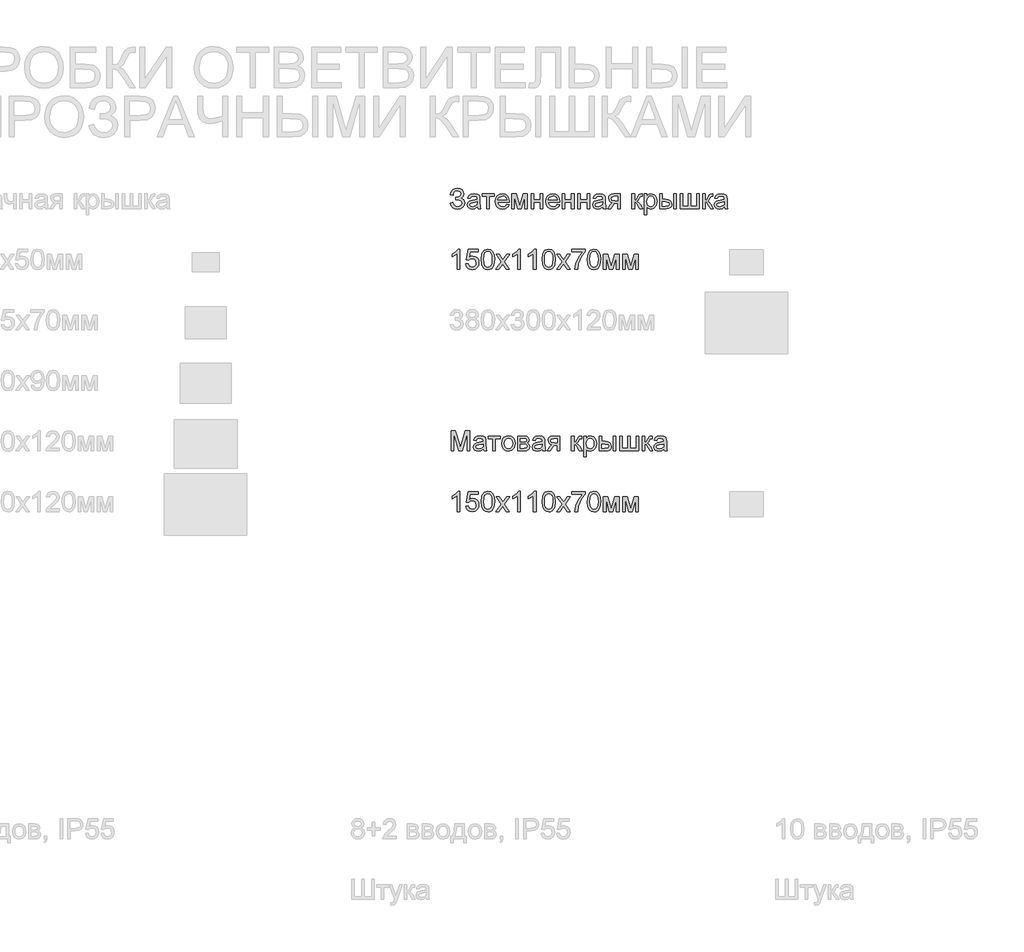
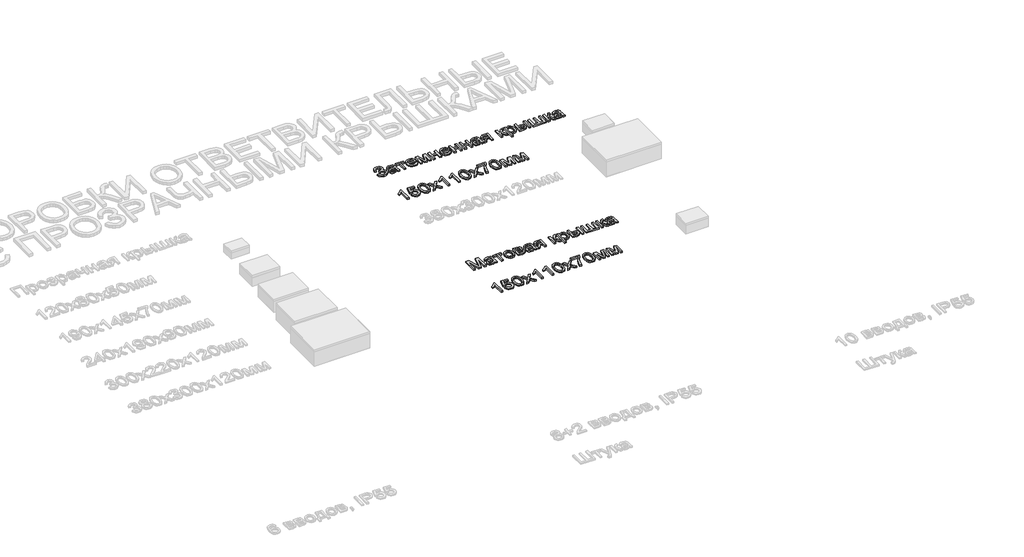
# One storey, part 28 of 98: 4 proxies.
"""IFC4 building model written with IfcOpenShell, lengths in millimetres."""

from ifc_helpers import new_model, si_unit, origin, origin_with_axes, place, context, project, spatial, polyline, outline, extrude, element, save

model = new_model("IFC4")

# Units and contexts
model_context = context("Model", 3, world=origin())
ifc_project = project(units=[si_unit("LENGTHUNIT", "METRE", prefix="MILLI")], contexts=[model_context])

# Site, building, storey
site = spatial("IfcSite", under=ifc_project)
building = spatial("IfcBuilding", under=site)
storey = spatial("IfcBuildingStorey", under=building, Name="Этаж 01", Elevation=0.0)

# Proxies
placement = place(None, origin())
element("IfcBuildingElementProxy", 1, Name="100", ObjectType="100", at=placement, inside=storey, context=model_context, shape_type="SweptSolid", body=[
    extrude(outline(polyline([(8587.7229186, -42337.5373486), (8575.1658798, -42337.5373486), (8575.1658798, -42259.25206), (8563.2710286, -42267.7256087), (8550.0518023, -42274.0654417), (8550.0518023, -42262.195116), (8568.4581648, -42250.4474176), (8579.6295147, -42237.0810385), (8587.7229186, -42237.0810385), (8587.7229186, -42337.5373486)])), origin_with_axes(), (0.0, 0.0, 1.0), 10.0),
    extrude(outline(polyline([(8617.5458857, -42310.8536412), (8630.1029244, -42309.2840114), (8636.4304948, -42322.2211949), (8649.5516192, -42326.5499397), (8658.5524654, -42325.0446892), (8665.2969686, -42320.5289377), (8669.5092175, -42313.5238514), (8670.9133004, -42304.5505964), (8665.6525879, -42289.6391128), (8659.0460404, -42285.5372286), (8649.747823, -42284.1699338), (8638.7236259, -42286.3527004), (8631.6725543, -42292.0180831), (8619.1155155, -42290.4484532), (8630.1029244, -42238.6506683), (8678.7614497, -42238.6506683), (8678.7614497, -42251.2077071), (8640.2564675, -42251.2077071), (8634.8853904, -42278.8724331), (8643.8555797, -42273.4277796), (8653.2549647, -42271.6128951), (8664.9873346, -42273.8631066), (8674.7270105, -42280.6137412), (8681.284507, -42290.9021744), (8683.4703392, -42303.7657815), (8681.5021705, -42316.3228202), (8675.5976645, -42327.0649745), (8664.2914245, -42336.0964775), (8649.5025683, -42339.1069785), (8637.1693244, -42337.1725323), (8627.3438095, -42331.3691938), (8620.6085033, -42322.3714134), (8617.5458857, -42310.8536412)])), origin_with_axes(), (0.0, 0.0, 1.0), 10.0),
    extrude(outline(polyline([(8694.4577481, -42288.1185339), (8698.1488308, -42259.2152718), (8709.1117143, -42242.5502175), (8727.4199749, -42237.0810385), (8742.0862038, -42240.3184), (8752.2152214, -42249.65034), (8758.1013333, -42264.5127726), (8760.3822017, -42288.1185339), (8756.7279072, -42316.8991687), (8745.8018119, -42333.6010113), (8737.5704523, -42337.7304867), (8727.4199749, -42339.1069785), (8714.3724268, -42336.7157455), (8704.4641384, -42329.5420466), (8696.9593457, -42312.5520298), (8694.4577481, -42288.1185339)]), holes=[polyline([(8707.0147869, -42288.0940085), (8708.4863149, -42307.8462059), (8712.9008988, -42319.2781389), (8719.4737238, -42324.7319895), (8727.4199749, -42326.5499397), (8735.366226, -42324.7258581), (8741.939051, -42319.2536135), (8746.3536349, -42307.8155491), (8747.8251629, -42288.0940085), (8746.4026858, -42268.7863351), (8742.1352547, -42257.2654973), (8735.5746925, -42251.5449322), (8727.2728221, -42249.6380772), (8719.4124101, -42251.3180717), (8713.0971025, -42256.358055), (8708.5353658, -42268.5962627), (8707.0147869, -42288.0940085)])]), origin_with_axes(), (0.0, 0.0, 1.0), 10.0),
    extrude(outline(polyline([(8766.660721, -42337.5373486), (8793.4915812, -42300.4548435), (8768.2303509, -42263.7647458), (8783.3380382, -42263.7647458), (8795.5271949, -42281.4230816), (8801.2171031, -42289.7617402), (8806.1467219, -42282.9436605), (8820.0281358, -42263.7647458), (8835.1358231, -42263.7647458), (8808.5992685, -42300.4548435), (8834.1548044, -42337.5373486), (8819.0471172, -42337.5373486), (8803.6696498, -42315.2436997), (8800.8492211, -42311.1724723), (8781.7684083, -42337.5373486), (8766.660721, -42337.5373486)])), origin_with_axes(), (0.0, 0.0, 1.0), 10.0),
    extrude(outline(polyline([(8889.091849, -42337.5373486), (8876.5348103, -42337.5373486), (8876.5348103, -42259.25206), (8864.6399591, -42267.7256087), (8851.4207327, -42274.0654417), (8851.4207327, -42262.195116), (8869.8270952, -42250.4474176), (8880.9984451, -42237.0810385), (8889.091849, -42237.0810385), (8889.091849, -42337.5373486)])), origin_with_axes(), (0.0, 0.0, 1.0), 10.0),
    extrude(outline(polyline([(8966.0037115, -42337.5373486), (8953.4466727, -42337.5373486), (8953.4466727, -42259.25206), (8941.5518216, -42267.7256087), (8928.3325952, -42274.0654417), (8928.3325952, -42262.195116), (8946.7389577, -42250.4474176), (8957.9103076, -42237.0810385), (8966.0037115, -42237.0810385), (8966.0037115, -42337.5373486)])), origin_with_axes(), (0.0, 0.0, 1.0), 10.0),
    extrude(outline(polyline([(8995.8266786, -42288.1185339), (8999.5177613, -42259.2152718), (9010.4806447, -42242.5502175), (9028.7889053, -42237.0810385), (9043.4551342, -42240.3184), (9053.5841518, -42249.65034), (9059.4702637, -42264.5127726), (9061.7511321, -42288.1185339), (9058.0968376, -42316.8991687), (9047.1707424, -42333.6010113), (9038.9393827, -42337.7304867), (9028.7889053, -42339.1069785), (9015.7413572, -42336.7157455), (9005.8330688, -42329.5420466), (8998.3282761, -42312.5520298), (8995.8266786, -42288.1185339)]), holes=[polyline([(9008.3837173, -42288.0940085), (9009.8552453, -42307.8462059), (9014.2698293, -42319.2781389), (9020.8426542, -42324.7319895), (9028.7889053, -42326.5499397), (9036.7351564, -42324.7258581), (9043.3079814, -42319.2536135), (9047.7225654, -42307.8155491), (9049.1940933, -42288.0940085), (9047.7716163, -42268.7863351), (9043.5041852, -42257.2654973), (9036.9436229, -42251.5449322), (9028.6417525, -42249.6380772), (9020.7813406, -42251.3180717), (9014.466033, -42256.358055), (9009.9042963, -42268.5962627), (9008.3837173, -42288.0940085)])]), origin_with_axes(), (0.0, 0.0, 1.0), 10.0),
    extrude(outline(polyline([(9068.0296515, -42337.5373486), (9094.8605117, -42300.4548435), (9069.5992813, -42263.7647458), (9084.7069686, -42263.7647458), (9096.8961254, -42281.4230816), (9102.5860336, -42289.7617402), (9107.5156523, -42282.9436605), (9121.3970663, -42263.7647458), (9136.5047535, -42263.7647458), (9109.9681989, -42300.4548435), (9135.5237349, -42337.5373486), (9120.4160476, -42337.5373486), (9105.0385802, -42315.2436997), (9102.2181516, -42311.1724723), (9083.1373388, -42337.5373486), (9068.0296515, -42337.5373486)])), origin_with_axes(), (0.0, 0.0, 1.0), 10.0),
    extrude(outline(polyline([(9143.3718841, -42251.2077071), (9143.3718841, -42238.6506683), (9209.2963376, -42238.6506683), (9209.2963376, -42248.8042114), (9190.5956696, -42275.8190126), (9176.2850599, -42310.2405046), (9171.6252213, -42337.5373486), (9159.0681826, -42337.5373486), (9164.059115, -42309.210435), (9177.7565879, -42277.1924387), (9196.7392989, -42251.2077071), (9143.3718841, -42251.2077071)])), origin_with_axes(), (0.0, 0.0, 1.0), 10.0),
    extrude(outline(polyline([(9220.2837466, -42288.1185339), (9223.9748293, -42259.2152718), (9234.9377127, -42242.5502175), (9253.2459733, -42237.0810385), (9267.9122022, -42240.3184), (9278.0412198, -42249.65034), (9283.9273317, -42264.5127726), (9286.2082001, -42288.1185339), (9282.5539056, -42316.8991687), (9271.6278104, -42333.6010113), (9263.3964507, -42337.7304867), (9253.2459733, -42339.1069785), (9240.1984252, -42336.7157455), (9230.2901368, -42329.5420466), (9222.7853441, -42312.5520298), (9220.2837466, -42288.1185339)]), holes=[polyline([(9232.8407853, -42288.0940085), (9234.3123133, -42307.8462059), (9238.7268973, -42319.2781389), (9245.2997222, -42324.7319895), (9253.2459733, -42326.5499397), (9261.1922244, -42324.7258581), (9267.7650494, -42319.2536135), (9272.1796334, -42307.8155491), (9273.6511613, -42288.0940085), (9272.2286843, -42268.7863351), (9267.9612531, -42257.2654973), (9261.4006909, -42251.5449322), (9253.0988205, -42249.6380772), (9245.2384086, -42251.3180717), (9238.923101, -42256.358055), (9234.3613642, -42268.5962627), (9232.8407853, -42288.0940085)])]), origin_with_axes(), (0.0, 0.0, 1.0), 10.0),
    extrude(outline(polyline([(9300.3348687, -42263.7647458), (9321.9418046, -42263.7647458), (9338.5945962, -42322.8220688), (9356.5472376, -42263.7647458), (9377.2467312, -42263.7647458), (9377.2467312, -42337.5373486), (9364.6896924, -42337.5373486), (9364.6896924, -42278.1366691), (9346.6389492, -42337.5373486), (9330.1578358, -42337.5373486), (9312.8919075, -42275.291715), (9312.8919075, -42337.5373486), (9300.3348687, -42337.5373486), (9300.3348687, -42263.7647458)])), origin_with_axes(), (0.0, 0.0, 1.0), 10.0),
    extrude(outline(polyline([(9396.0822893, -42263.7647458), (9417.6892252, -42263.7647458), (9434.3420168, -42322.8220688), (9452.2946582, -42263.7647458), (9472.9941518, -42263.7647458), (9472.9941518, -42337.5373486), (9460.437113, -42337.5373486), (9460.437113, -42278.1366691), (9442.3863698, -42337.5373486), (9425.9052564, -42337.5373486), (9408.6393281, -42275.291715), (9408.6393281, -42337.5373486), (9396.0822893, -42337.5373486), (9396.0822893, -42263.7647458)])), origin_with_axes(), (0.0, 0.0, 1.0), 10.0),
])
element("IfcBuildingElementProxy", 2, Name="100", ObjectType="100", at=placement, inside=storey, context=model_context, shape_type="SweptSolid", body=[
    extrude(outline(polyline([(8540.6340232, -42009.2840114), (8553.191062, -42006.1447517), (8560.9043211, -42019.7441228), (8568.1914503, -42024.8484855), (8577.5203246, -42026.5499397), (8594.185379, -42021.43638), (8598.7563128, -42015.792457), (8600.2799574, -42009.0878077), (8598.6152913, -42002.0643272), (8593.6212932, -41996.6411335), (8575.4847109, -41992.0180831), (8568.8873604, -41992.0180831), (8568.8873604, -41979.4610443), (8583.0998682, -41978.4432375), (8591.794146, -41973.2438386), (8595.5710678, -41963.7402204), (8590.5433472, -41952.7405487), (8576.9317134, -41948.0684474), (8564.1171572, -41951.6614282), (8556.7840428, -41961.1895719), (8554.7606918, -41970.0432652), (8542.2036531, -41966.9040055), (8546.104735, -41953.1697444), (8553.1726679, -41943.3595578), (8563.4074516, -41937.4734459), (8576.8090861, -41935.5114086), (8589.7370725, -41937.550088), (8599.6790834, -41943.6661262), (8606.0158508, -41952.5106225), (8608.1281066, -41962.7346763), (8604.8416941, -41975.1629563), (8594.9824566, -41984.439714), (8607.7111737, -41993.0849409), (8612.8369961, -42008.7199257), (8610.3783181, -42020.6117112), (8603.0022841, -42030.3881752), (8591.5672854, -42036.9272776), (8576.9317134, -42039.1069785), (8564.196865, -42037.243043), (8553.9023005, -42031.6512367), (8546.0480199, -42022.3315595), (8540.6340232, -42009.2840114)])), origin_with_axes(), (0.0, 0.0, 1.0), 10.0),
    extrude(outline(polyline([(8675.62219, -42028.1195695), (8663.4452959, -42036.6299064), (8649.9930776, -42039.1069785), (8639.4992437, -42037.6170564), (8631.7583934, -42033.1472901), (8626.9851245, -42026.3598673), (8625.3940349, -42017.9169755), (8627.7975306, -42007.9841617), (8634.1128382, -42000.7736746), (8642.9052179, -41996.6533962), (8653.7699995, -41994.7649353), (8675.5486136, -41990.4484532), (8675.62219, -41987.6525501), (8672.1640992, -41978.3819238), (8658.2826853, -41974.7521548), (8645.5784937, -41977.1679132), (8639.5207035, -41985.7395637), (8626.9636647, -41984.1699338), (8632.3960555, -41971.9072007), (8643.3344135, -41964.721239), (8659.901366, -41962.195116), (8675.1194179, -41964.4269334), (8683.7155939, -41970.0310025), (8687.5660921, -41978.5536021), (8688.1792287, -41989.541011), (8688.1792287, -42005.163733), (8688.8168909, -42026.9791354), (8691.3184884, -42037.5373486), (8678.7614497, -42037.5373486), (8675.62219, -42028.1195695)]), holes=[polyline([(8675.62219, -42003.005492), (8655.3641548, -42006.8559902), (8644.5606868, -42008.8916039), (8639.6678563, -42012.2025419), (8637.9510737, -42017.0340587), (8641.6912073, -42023.8276129), (8652.6663535, -42026.5499397), (8665.370545, -42023.5455701), (8673.5620508, -42016.2737693), (8675.5486136, -42006.5616846), (8675.62219, -42003.005492)])]), origin_with_axes(), (0.0, 0.0, 1.0), 10.0),
    extrude(outline(polyline([(8699.1666377, -41963.7647458), (8758.8125718, -41963.7647458), (8758.8125718, -41976.3217846), (8735.2681241, -41976.3217846), (8735.2681241, -42037.5373486), (8722.7110854, -42037.5373486), (8722.7110854, -41976.3217846), (8699.1666377, -41976.3217846), (8699.1666377, -41963.7647458)])), origin_with_axes(), (0.0, 0.0, 1.0), 10.0),
    extrude(outline(polyline([(8821.4506129, -42015.5625308), (8833.762397, -42017.1321606), (8829.3263532, -42026.4089183), (8822.2476905, -42033.3434939), (8812.6858243, -42037.6661073), (8800.8001702, -42039.1069785), (8786.0664963, -42036.6207093), (8774.7295995, -42029.1619019), (8767.5007183, -42017.2149341), (8765.0910912, -42001.2641839), (8767.5252437, -41984.7769391), (8774.8277013, -41972.4467609), (8786.011314, -41964.7580272), (8800.0889317, -41962.195116), (8813.7281566, -41964.7518959), (8824.6266608, -41972.4222355), (8831.7727685, -41984.7278882), (8834.1548044, -42001.1906075), (8834.081228, -42004.5751218), (8777.64813, -42004.5751218), (8779.8216994, -42013.9745068), (8784.8708798, -42020.884557), (8792.158009, -42025.133594), (8801.0454249, -42026.5499397), (8813.357209, -42023.9257148), (8821.4506129, -42015.5625308)]), holes=[polyline([(8777.64813, -41992.0180831), (8821.5977657, -41992.0180831), (8816.5700451, -41980.6382667), (8809.2491934, -41976.2236828), (8800.0398807, -41974.7521548), (8784.5765742, -41979.4487816), (8779.7113348, -41984.9394204), (8777.64813, -41992.0180831)])]), origin_with_axes(), (0.0, 0.0, 1.0), 10.0),
    extrude(outline(polyline([(8846.7118432, -41963.7647458), (8868.318779, -41963.7647458), (8884.9715707, -42022.8220688), (8902.9242121, -41963.7647458), (8923.6237057, -41963.7647458), (8923.6237057, -42037.5373486), (8911.0666669, -42037.5373486), (8911.0666669, -41978.1366691), (8893.0159237, -42037.5373486), (8876.5348103, -42037.5373486), (8859.268882, -41975.291715), (8859.268882, -42037.5373486), (8846.7118432, -42037.5373486), (8846.7118432, -41963.7647458)])), origin_with_axes(), (0.0, 0.0, 1.0), 10.0),
    extrude(outline(polyline([(8942.4592638, -41963.7647458), (8955.0163026, -41963.7647458), (8955.0163026, -41992.0180831), (8987.9785293, -41992.0180831), (8987.9785293, -41963.7647458), (9000.5355681, -41963.7647458), (9000.5355681, -42037.5373486), (8987.9785293, -42037.5373486), (8987.9785293, -42004.5751218), (8955.0163026, -42004.5751218), (8955.0163026, -42037.5373486), (8942.4592638, -42037.5373486), (8942.4592638, -41963.7647458)])), origin_with_axes(), (0.0, 0.0, 1.0), 10.0),
    extrude(outline(polyline([(9071.0217584, -42015.5625308), (9083.3335425, -42017.1321606), (9078.8974988, -42026.4089183), (9071.818836, -42033.3434939), (9062.2569699, -42037.6661073), (9050.3713157, -42039.1069785), (9035.6376418, -42036.6207093), (9024.300745, -42029.1619019), (9017.0718638, -42017.2149341), (9014.6622367, -42001.2641839), (9017.0963893, -41984.7769391), (9024.3988469, -41972.4467609), (9035.5824595, -41964.7580272), (9049.6600772, -41962.195116), (9063.2993022, -41964.7518959), (9074.1978063, -41972.4222355), (9081.343914, -41984.7278882), (9083.72595, -42001.1906075), (9083.6523736, -42004.5751218), (9027.2192755, -42004.5751218), (9029.392845, -42013.9745068), (9034.4420253, -42020.884557), (9041.7291545, -42025.133594), (9050.6165704, -42026.5499397), (9062.9283545, -42023.9257148), (9071.0217584, -42015.5625308)]), holes=[polyline([(9027.2192755, -41992.0180831), (9071.1689112, -41992.0180831), (9066.1411906, -41980.6382667), (9058.8203389, -41976.2236828), (9049.6110263, -41974.7521548), (9034.1477197, -41979.4487816), (9029.2824804, -41984.9394204), (9027.2192755, -41992.0180831)])]), origin_with_axes(), (0.0, 0.0, 1.0), 10.0),
    extrude(outline(polyline([(9096.2829887, -41963.7647458), (9108.8400275, -41963.7647458), (9108.8400275, -41992.0180831), (9141.8022543, -41992.0180831), (9141.8022543, -41963.7647458), (9154.359293, -41963.7647458), (9154.359293, -42037.5373486), (9141.8022543, -42037.5373486), (9141.8022543, -42004.5751218), (9108.8400275, -42004.5751218), (9108.8400275, -42037.5373486), (9096.2829887, -42037.5373486), (9096.2829887, -41963.7647458)])), origin_with_axes(), (0.0, 0.0, 1.0), 10.0),
    extrude(outline(polyline([(9173.1948512, -41963.7647458), (9185.75189, -41963.7647458), (9185.75189, -41992.0180831), (9218.7141167, -41992.0180831), (9218.7141167, -41963.7647458), (9231.2711555, -41963.7647458), (9231.2711555, -42037.5373486), (9218.7141167, -42037.5373486), (9218.7141167, -42004.5751218), (9185.75189, -42004.5751218), (9185.75189, -42037.5373486), (9173.1948512, -42037.5373486), (9173.1948512, -41963.7647458)])), origin_with_axes(), (0.0, 0.0, 1.0), 10.0),
    extrude(outline(polyline([(9297.195609, -42028.1195695), (9285.018715, -42036.6299064), (9271.5664967, -42039.1069785), (9261.0726628, -42037.6170564), (9253.3318125, -42033.1472901), (9248.5585436, -42026.3598673), (9246.9674539, -42017.9169755), (9249.3709497, -42007.9841617), (9255.6862572, -42000.7736746), (9264.4786369, -41996.6533962), (9275.3434185, -41994.7649353), (9297.1220326, -41990.4484532), (9297.195609, -41987.6525501), (9293.7375183, -41978.3819238), (9279.8561043, -41974.7521548), (9267.1519128, -41977.1679132), (9261.0941226, -41985.7395637), (9248.5370838, -41984.1699338), (9253.9694746, -41971.9072007), (9264.9078326, -41964.721239), (9281.4747851, -41962.195116), (9296.692837, -41964.4269334), (9305.2890129, -41970.0310025), (9309.1395111, -41978.5536021), (9309.7526478, -41989.541011), (9309.7526478, -42005.163733), (9310.3903099, -42026.9791354), (9312.8919075, -42037.5373486), (9300.3348687, -42037.5373486), (9297.195609, -42028.1195695)]), holes=[polyline([(9297.195609, -42003.005492), (9276.9375738, -42006.8559902), (9266.1341059, -42008.8916039), (9261.2412754, -42012.2025419), (9259.5244927, -42017.0340587), (9263.2646263, -42023.8276129), (9274.2397725, -42026.5499397), (9286.9439641, -42023.5455701), (9295.1354699, -42016.2737693), (9297.1220326, -42006.5616846), (9297.195609, -42003.005492)])]), origin_with_axes(), (0.0, 0.0, 1.0), 10.0),
    extrude(outline(polyline([(9383.5252506, -41963.7647458), (9383.5252506, -42037.5373486), (9370.9682118, -42037.5373486), (9370.9682118, -42009.2840114), (9364.1256067, -42009.2840114), (9354.8059295, -42010.8781667), (9346.050338, -42021.5957955), (9336.0439477, -42037.5373486), (9321.5248716, -42037.5373486), (9334.1309613, -42017.3774153), (9344.8240647, -42006.9295666), (9336.2401514, -42004.2992103), (9330.2068867, -41999.3021466), (9325.4489463, -41985.0773761), (9327.0737584, -41976.4812001), (9331.9481948, -41969.6753832), (9339.9005773, -41965.2424052), (9350.7592275, -41963.7647458), (9383.5252506, -41963.7647458)]), holes=[polyline([(9370.9682118, -41976.3217846), (9354.413522, -41976.3217846), (9341.0103547, -41979.2280524), (9338.005985, -41986.0338693), (9342.4328317, -41994.1395359), (9358.1168674, -41996.7269726), (9370.9682118, -41996.7269726), (9370.9682118, -41976.3217846)])]), origin_with_axes(), (0.0, 0.0, 1.0), 10.0),
    extrude(outline(polyline([(9441.6015549, -41963.7647458), (9454.1585936, -41963.7647458), (9454.1585936, -41995.1573428), (9462.5708286, -41992.9009999), (9469.4624846, -41979.7553499), (9475.189181, -41968.4123217), (9480.2414271, -41964.721239), (9489.4262142, -41963.7647458), (9491.8297099, -41963.7647458), (9491.8297099, -41976.395361), (9488.4451956, -41976.3217846), (9482.313829, -41977.6461598), (9477.9973469, -41985.911242), (9472.9328381, -41994.8507744), (9465.8327156, -41999.2285702), (9473.7544412, -42004.1152694), (9481.5290141, -42014.4098338), (9494.9689696, -42037.5373486), (9480.6951482, -42037.5373486), (9467.5249728, -42014.9003432), (9460.9030969, -42005.3231486), (9454.1585936, -42003.005492), (9454.1585936, -42037.5373486), (9441.6015549, -42037.5373486), (9441.6015549, -41963.7647458)])), origin_with_axes(), (0.0, 0.0, 1.0), 10.0),
    extrude(outline(polyline([(9502.8171189, -42065.7906858), (9502.8171189, -41963.7647458), (9515.3741576, -41963.7647458), (9515.3741576, -41976.07653), (9524.0561727, -41965.6654695), (9535.7793456, -41962.195116), (9551.6963733, -41967.0511583), (9562.095171, -41980.7363686), (9565.6023127, -42000.0869615), (9561.6414499, -42020.4308358), (9550.1390062, -42034.2877243), (9534.2587667, -42039.1069785), (9523.3326715, -42035.8818796), (9515.3741576, -42027.7271621), (9515.3741576, -42065.7906858), (9502.8171189, -42065.7906858)]), holes=[polyline([(9515.3741576, -42001.2396584), (9516.7322553, -42012.4968475), (9520.8065484, -42020.3695222), (9526.8183534, -42025.0048353), (9533.9889866, -42026.5499397), (9541.2761158, -42024.949653), (9547.4412049, -42020.148793), (9551.6442567, -42011.987944), (9553.0452739, -42000.3076907), (9551.6779792, -41989.1118153), (9547.5760949, -41981.128776), (9541.5734871, -41976.3463101), (9534.5040214, -41974.7521548), (9527.4069646, -41976.4474776), (9521.1744304, -41981.5334462), (9516.8242258, -41989.850645), (9515.3741576, -42001.2396584)])]), origin_with_axes(), (0.0, 0.0, 1.0), 10.0),
    extrude(outline(polyline([(9579.7289813, -41963.7647458), (9592.2860201, -41963.7647458), (9592.2860201, -41990.4484532), (9607.8106403, -41990.4484532), (9621.2291361, -41992.0211488), (9631.171147, -41996.7392353), (9637.3239733, -42004.2225683), (9639.3749155, -42014.0910028), (9637.6550671, -42023.0765205), (9632.4955222, -42030.6579553), (9623.5590554, -42035.8175003), (9610.5084416, -42037.5373486), (9579.7289813, -42037.5373486), (9579.7289813, -41963.7647458)]), holes=[polyline([(9592.2860201, -42024.9803098), (9605.1864154, -42024.9803098), (9621.839207, -42022.3438222), (9626.8178767, -42014.1155283), (9623.126794, -42006.3900064), (9606.8296216, -42003.005492), (9592.2860201, -42003.005492), (9592.2860201, -42024.9803098)])]), origin_with_axes(), (0.0, 0.0, 1.0), 10.0),
    extrude(outline(polyline([(9648.7926945, -41963.7647458), (9661.3497333, -41963.7647458), (9661.3497333, -42037.5373486), (9648.7926945, -42037.5373486), (9648.7926945, -41963.7647458)])), origin_with_axes(), (0.0, 0.0, 1.0), 10.0),
    extrude(outline(polyline([(9680.1852915, -41963.7647458), (9692.7423302, -41963.7647458), (9692.7423302, -42024.9803098), (9720.9956675, -42024.9803098), (9720.9956675, -41963.7647458), (9733.5527062, -41963.7647458), (9733.5527062, -42024.9803098), (9761.8060435, -42024.9803098), (9761.8060435, -41963.7647458), (9774.3630822, -41963.7647458), (9774.3630822, -42037.5373486), (9680.1852915, -42037.5373486), (9680.1852915, -41963.7647458)])), origin_with_axes(), (0.0, 0.0, 1.0), 10.0),
    extrude(outline(polyline([(9791.6290105, -41963.7647458), (9804.1860493, -41963.7647458), (9804.1860493, -41995.1573428), (9812.5982843, -41992.9009999), (9819.4899403, -41979.7553499), (9825.2166367, -41968.4123217), (9830.2688828, -41964.721239), (9839.4536699, -41963.7647458), (9841.8571656, -41963.7647458), (9841.8571656, -41976.395361), (9838.4726513, -41976.3217846), (9832.3412847, -41977.6461598), (9828.0248026, -41985.911242), (9822.9602938, -41994.8507744), (9815.8601713, -41999.2285702), (9823.7818969, -42004.1152694), (9831.5564698, -42014.4098338), (9844.9964253, -42037.5373486), (9830.7226039, -42037.5373486), (9817.5524285, -42014.9003432), (9810.9305526, -42005.3231486), (9804.1860493, -42003.005492), (9804.1860493, -42037.5373486), (9791.6290105, -42037.5373486), (9791.6290105, -41963.7647458)])), origin_with_axes(), (0.0, 0.0, 1.0), 10.0),
    extrude(outline(polyline([(9899.9334699, -42028.1195695), (9887.7565759, -42036.6299064), (9874.3043576, -42039.1069785), (9863.8105237, -42037.6170564), (9856.0696734, -42033.1472901), (9851.2964045, -42026.3598673), (9849.7053148, -42017.9169755), (9852.1088105, -42007.9841617), (9858.4241181, -42000.7736746), (9867.2164978, -41996.6533962), (9878.0812794, -41994.7649353), (9899.8598935, -41990.4484532), (9899.9334699, -41987.6525501), (9896.4753792, -41978.3819238), (9882.5939652, -41974.7521548), (9869.8897736, -41977.1679132), (9863.8319835, -41985.7395637), (9851.2749447, -41984.1699338), (9856.7073355, -41971.9072007), (9867.6456935, -41964.721239), (9884.212646, -41962.195116), (9899.4306979, -41964.4269334), (9908.0268738, -41970.0310025), (9911.877372, -41978.5536021), (9912.4905087, -41989.541011), (9912.4905087, -42005.163733), (9913.1281708, -42026.9791354), (9915.6297684, -42037.5373486), (9903.0727296, -42037.5373486), (9899.9334699, -42028.1195695)]), holes=[polyline([(9899.9334699, -42003.005492), (9879.6754347, -42006.8559902), (9868.8719668, -42008.8916039), (9863.9791363, -42012.2025419), (9862.2623536, -42017.0340587), (9866.0024872, -42023.8276129), (9876.9776334, -42026.5499397), (9889.681825, -42023.5455701), (9897.8733307, -42016.2737693), (9899.8598935, -42006.5616846), (9899.9334699, -42003.005492)])]), origin_with_axes(), (0.0, 0.0, 1.0), 10.0),
])
element("IfcBuildingElementProxy", 3, Name="100", ObjectType="100", at=placement, inside=storey, context=model_context, shape_type="SweptSolid", body=[
    extrude(outline(polyline([(8587.7229186, -43537.5373486), (8575.1658798, -43537.5373486), (8575.1658798, -43459.25206), (8563.2710286, -43467.7256087), (8550.0518023, -43474.0654417), (8550.0518023, -43462.195116), (8568.4581648, -43450.4474176), (8579.6295147, -43437.0810385), (8587.7229186, -43437.0810385), (8587.7229186, -43537.5373486)])), origin_with_axes(), (0.0, 0.0, 1.0), 10.0),
    extrude(outline(polyline([(8617.5458857, -43510.8536412), (8630.1029244, -43509.2840114), (8636.4304948, -43522.2211949), (8649.5516192, -43526.5499397), (8658.5524654, -43525.0446892), (8665.2969686, -43520.5289377), (8669.5092175, -43513.5238514), (8670.9133004, -43504.5505964), (8665.6525879, -43489.6391128), (8659.0460404, -43485.5372286), (8649.747823, -43484.1699338), (8638.7236259, -43486.3527004), (8631.6725543, -43492.0180831), (8619.1155155, -43490.4484532), (8630.1029244, -43438.6506683), (8678.7614497, -43438.6506683), (8678.7614497, -43451.2077071), (8640.2564675, -43451.2077071), (8634.8853904, -43478.8724331), (8643.8555797, -43473.4277796), (8653.2549647, -43471.6128951), (8664.9873346, -43473.8631066), (8674.7270105, -43480.6137412), (8681.284507, -43490.9021744), (8683.4703392, -43503.7657815), (8681.5021705, -43516.3228202), (8675.5976645, -43527.0649745), (8664.2914245, -43536.0964775), (8649.5025683, -43539.1069785), (8637.1693244, -43537.1725323), (8627.3438095, -43531.3691938), (8620.6085033, -43522.3714134), (8617.5458857, -43510.8536412)])), origin_with_axes(), (0.0, 0.0, 1.0), 10.0),
    extrude(outline(polyline([(8694.4577481, -43488.1185339), (8698.1488308, -43459.2152718), (8709.1117143, -43442.5502175), (8727.4199749, -43437.0810385), (8742.0862038, -43440.3184), (8752.2152214, -43449.65034), (8758.1013333, -43464.5127726), (8760.3822017, -43488.1185339), (8756.7279072, -43516.8991687), (8745.8018119, -43533.6010113), (8737.5704523, -43537.7304867), (8727.4199749, -43539.1069785), (8714.3724268, -43536.7157455), (8704.4641384, -43529.5420466), (8696.9593457, -43512.5520298), (8694.4577481, -43488.1185339)]), holes=[polyline([(8707.0147869, -43488.0940085), (8708.4863149, -43507.8462059), (8712.9008988, -43519.2781389), (8719.4737238, -43524.7319895), (8727.4199749, -43526.5499397), (8735.366226, -43524.7258581), (8741.939051, -43519.2536135), (8746.3536349, -43507.8155491), (8747.8251629, -43488.0940085), (8746.4026858, -43468.7863351), (8742.1352547, -43457.2654973), (8735.5746925, -43451.5449322), (8727.2728221, -43449.6380772), (8719.4124101, -43451.3180717), (8713.0971025, -43456.358055), (8708.5353658, -43468.5962627), (8707.0147869, -43488.0940085)])]), origin_with_axes(), (0.0, 0.0, 1.0), 10.0),
    extrude(outline(polyline([(8766.660721, -43537.5373486), (8793.4915812, -43500.4548435), (8768.2303509, -43463.7647458), (8783.3380382, -43463.7647458), (8795.5271949, -43481.4230816), (8801.2171031, -43489.7617402), (8806.1467219, -43482.9436605), (8820.0281358, -43463.7647458), (8835.1358231, -43463.7647458), (8808.5992685, -43500.4548435), (8834.1548044, -43537.5373486), (8819.0471172, -43537.5373486), (8803.6696498, -43515.2436997), (8800.8492211, -43511.1724723), (8781.7684083, -43537.5373486), (8766.660721, -43537.5373486)])), origin_with_axes(), (0.0, 0.0, 1.0), 10.0),
    extrude(outline(polyline([(8889.091849, -43537.5373486), (8876.5348103, -43537.5373486), (8876.5348103, -43459.25206), (8864.6399591, -43467.7256087), (8851.4207327, -43474.0654417), (8851.4207327, -43462.195116), (8869.8270952, -43450.4474176), (8880.9984451, -43437.0810385), (8889.091849, -43437.0810385), (8889.091849, -43537.5373486)])), origin_with_axes(), (0.0, 0.0, 1.0), 10.0),
    extrude(outline(polyline([(8966.0037115, -43537.5373486), (8953.4466727, -43537.5373486), (8953.4466727, -43459.25206), (8941.5518216, -43467.7256087), (8928.3325952, -43474.0654417), (8928.3325952, -43462.195116), (8946.7389577, -43450.4474176), (8957.9103076, -43437.0810385), (8966.0037115, -43437.0810385), (8966.0037115, -43537.5373486)])), origin_with_axes(), (0.0, 0.0, 1.0), 10.0),
    extrude(outline(polyline([(8995.8266786, -43488.1185339), (8999.5177613, -43459.2152718), (9010.4806447, -43442.5502175), (9028.7889053, -43437.0810385), (9043.4551342, -43440.3184), (9053.5841518, -43449.65034), (9059.4702637, -43464.5127726), (9061.7511321, -43488.1185339), (9058.0968376, -43516.8991687), (9047.1707424, -43533.6010113), (9038.9393827, -43537.7304867), (9028.7889053, -43539.1069785), (9015.7413572, -43536.7157455), (9005.8330688, -43529.5420466), (8998.3282761, -43512.5520298), (8995.8266786, -43488.1185339)]), holes=[polyline([(9008.3837173, -43488.0940085), (9009.8552453, -43507.8462059), (9014.2698293, -43519.2781389), (9020.8426542, -43524.7319895), (9028.7889053, -43526.5499397), (9036.7351564, -43524.7258581), (9043.3079814, -43519.2536135), (9047.7225654, -43507.8155491), (9049.1940933, -43488.0940085), (9047.7716163, -43468.7863351), (9043.5041852, -43457.2654973), (9036.9436229, -43451.5449322), (9028.6417525, -43449.6380772), (9020.7813406, -43451.3180717), (9014.466033, -43456.358055), (9009.9042963, -43468.5962627), (9008.3837173, -43488.0940085)])]), origin_with_axes(), (0.0, 0.0, 1.0), 10.0),
    extrude(outline(polyline([(9068.0296515, -43537.5373486), (9094.8605117, -43500.4548435), (9069.5992813, -43463.7647458), (9084.7069686, -43463.7647458), (9096.8961254, -43481.4230816), (9102.5860336, -43489.7617402), (9107.5156523, -43482.9436605), (9121.3970663, -43463.7647458), (9136.5047535, -43463.7647458), (9109.9681989, -43500.4548435), (9135.5237349, -43537.5373486), (9120.4160476, -43537.5373486), (9105.0385802, -43515.2436997), (9102.2181516, -43511.1724723), (9083.1373388, -43537.5373486), (9068.0296515, -43537.5373486)])), origin_with_axes(), (0.0, 0.0, 1.0), 10.0),
    extrude(outline(polyline([(9143.3718841, -43451.2077071), (9143.3718841, -43438.6506683), (9209.2963376, -43438.6506683), (9209.2963376, -43448.8042114), (9190.5956696, -43475.8190126), (9176.2850599, -43510.2405046), (9171.6252213, -43537.5373486), (9159.0681826, -43537.5373486), (9164.059115, -43509.210435), (9177.7565879, -43477.1924387), (9196.7392989, -43451.2077071), (9143.3718841, -43451.2077071)])), origin_with_axes(), (0.0, 0.0, 1.0), 10.0),
    extrude(outline(polyline([(9220.2837466, -43488.1185339), (9223.9748293, -43459.2152718), (9234.9377127, -43442.5502175), (9253.2459733, -43437.0810385), (9267.9122022, -43440.3184), (9278.0412198, -43449.65034), (9283.9273317, -43464.5127726), (9286.2082001, -43488.1185339), (9282.5539056, -43516.8991687), (9271.6278104, -43533.6010113), (9263.3964507, -43537.7304867), (9253.2459733, -43539.1069785), (9240.1984252, -43536.7157455), (9230.2901368, -43529.5420466), (9222.7853441, -43512.5520298), (9220.2837466, -43488.1185339)]), holes=[polyline([(9232.8407853, -43488.0940085), (9234.3123133, -43507.8462059), (9238.7268973, -43519.2781389), (9245.2997222, -43524.7319895), (9253.2459733, -43526.5499397), (9261.1922244, -43524.7258581), (9267.7650494, -43519.2536135), (9272.1796334, -43507.8155491), (9273.6511613, -43488.0940085), (9272.2286843, -43468.7863351), (9267.9612531, -43457.2654973), (9261.4006909, -43451.5449322), (9253.0988205, -43449.6380772), (9245.2384086, -43451.3180717), (9238.923101, -43456.358055), (9234.3613642, -43468.5962627), (9232.8407853, -43488.0940085)])]), origin_with_axes(), (0.0, 0.0, 1.0), 10.0),
    extrude(outline(polyline([(9300.3348687, -43463.7647458), (9321.9418046, -43463.7647458), (9338.5945962, -43522.8220688), (9356.5472376, -43463.7647458), (9377.2467312, -43463.7647458), (9377.2467312, -43537.5373486), (9364.6896924, -43537.5373486), (9364.6896924, -43478.1366691), (9346.6389492, -43537.5373486), (9330.1578358, -43537.5373486), (9312.8919075, -43475.291715), (9312.8919075, -43537.5373486), (9300.3348687, -43537.5373486), (9300.3348687, -43463.7647458)])), origin_with_axes(), (0.0, 0.0, 1.0), 10.0),
    extrude(outline(polyline([(9396.0822893, -43463.7647458), (9417.6892252, -43463.7647458), (9434.3420168, -43522.8220688), (9452.2946582, -43463.7647458), (9472.9941518, -43463.7647458), (9472.9941518, -43537.5373486), (9460.437113, -43537.5373486), (9460.437113, -43478.1366691), (9442.3863698, -43537.5373486), (9425.9052564, -43537.5373486), (9408.6393281, -43475.291715), (9408.6393281, -43537.5373486), (9396.0822893, -43537.5373486), (9396.0822893, -43463.7647458)])), origin_with_axes(), (0.0, 0.0, 1.0), 10.0),
])
element("IfcBuildingElementProxy", 4, Name="100", ObjectType="100", at=placement, inside=storey, context=model_context, shape_type="SweptSolid", body=[
    extrude(outline(polyline([(8545.3429127, -43237.5373486), (8545.3429127, -43137.0810385), (8566.9498486, -43137.0810385), (8587.5021894, -43207.8860598), (8591.6469932, -43222.674916), (8596.1351535, -43206.6597865), (8616.3441378, -43137.0810385), (8637.9510737, -43137.0810385), (8637.9510737, -43237.5373486), (8625.3940349, -43237.5373486), (8625.3940349, -43149.6380772), (8600.15733, -43237.5373486), (8583.1366564, -43237.5373486), (8557.8999515, -43149.6380772), (8557.8999515, -43237.5373486), (8545.3429127, -43237.5373486)])), origin_with_axes(), (0.0, 0.0, 1.0), 10.0),
    extrude(outline(polyline([(8705.445157, -43228.1195695), (8693.268263, -43236.6299064), (8679.8160447, -43239.1069785), (8669.3222108, -43237.6170564), (8661.5813605, -43233.1472901), (8656.8080916, -43226.3598673), (8655.217002, -43217.9169755), (8657.6204977, -43207.9841617), (8663.9358053, -43200.7736746), (8672.7281849, -43196.6533962), (8683.5929665, -43194.7649353), (8705.3715807, -43190.4484532), (8705.445157, -43187.6525501), (8701.9870663, -43178.3819238), (8688.1056523, -43174.7521548), (8675.4014608, -43177.1679132), (8669.3436706, -43185.7395637), (8656.7866318, -43184.1699338), (8662.2190226, -43171.9072007), (8673.1573806, -43164.721239), (8689.7243331, -43162.195116), (8704.942385, -43164.4269334), (8713.5385609, -43170.0310025), (8717.3890592, -43178.5536021), (8718.0021958, -43189.541011), (8718.0021958, -43205.163733), (8718.6398579, -43226.9791354), (8721.1414555, -43237.5373486), (8708.5844167, -43237.5373486), (8705.445157, -43228.1195695)]), holes=[polyline([(8705.445157, -43203.005492), (8685.1871218, -43206.8559902), (8674.3836539, -43208.8916039), (8669.4908234, -43212.2025419), (8667.7740407, -43217.0340587), (8671.5141744, -43223.8276129), (8682.4893206, -43226.5499397), (8695.1935121, -43223.5455701), (8703.3850179, -43216.2737693), (8705.3715807, -43206.5616846), (8705.445157, -43203.005492)])]), origin_with_axes(), (0.0, 0.0, 1.0), 10.0),
    extrude(outline(polyline([(8728.9896047, -43163.7647458), (8788.6355389, -43163.7647458), (8788.6355389, -43176.3217846), (8765.0910912, -43176.3217846), (8765.0910912, -43237.5373486), (8752.5340524, -43237.5373486), (8752.5340524, -43176.3217846), (8728.9896047, -43176.3217846), (8728.9896047, -43163.7647458)])), origin_with_axes(), (0.0, 0.0, 1.0), 10.0),
    extrude(outline(polyline([(8796.4836881, -43200.6510472), (8799.1998835, -43182.8639528), (8807.3484697, -43170.3620963), (8817.4161736, -43164.2368611), (8829.4704404, -43162.195116), (8842.6620756, -43164.6813852), (8853.198829, -43172.1401926), (8860.1058135, -43183.9829272), (8862.4081417, -43199.6209776), (8858.3369142, -43221.9636775), (8846.4788513, -43234.6065554), (8829.4704404, -43239.1069785), (8816.1193896, -43236.6299064), (8805.5948989, -43229.1986901), (8798.7614908, -43217.1076351), (8796.4836881, -43200.6510472)]), holes=[polyline([(8809.0407269, -43200.6265218), (8810.4938608, -43211.9910097), (8814.8532624, -43220.0874793), (8821.4138247, -43224.9343246), (8829.4704404, -43226.5499397), (8837.4902679, -43224.9251275), (8844.0385674, -43220.0506911), (8848.397969, -43211.8469226), (8849.8511029, -43200.2341143), (8848.388772, -43189.2007201), (8844.0017792, -43181.2146152), (8837.4442826, -43176.3677699), (8829.4704404, -43174.7521548), (8821.4138247, -43176.3616385), (8814.8532624, -43181.1900897), (8810.4938608, -43189.2681652), (8809.0407269, -43200.6265218)])]), origin_with_axes(), (0.0, 0.0, 1.0), 10.0),
    extrude(outline(polyline([(8876.5348103, -43163.7647458), (8904.1995363, -43163.7647458), (8919.3685372, -43165.4447403), (8927.9033995, -43171.6006323), (8931.4718549, -43182.3305239), (8929.3136138, -43191.0493272), (8922.8143653, -43197.2665329), (8931.2511257, -43204.0723498), (8934.6111146, -43215.9058873), (8932.4835304, -43225.4769505), (8927.4251529, -43232.2153224), (8919.4175882, -43236.2068421), (8908.442442, -43237.5373486), (8876.5348103, -43237.5373486), (8876.5348103, -43163.7647458)]), holes=[polyline([(8889.091849, -43224.9803098), (8904.4938419, -43224.9803098), (8918.1545267, -43222.7117042), (8922.0540758, -43214.8758177), (8919.9080975, -43208.8302903), (8914.3162912, -43205.3108858), (8903.2675686, -43204.5751218), (8889.091849, -43204.5751218), (8889.091849, -43224.9803098)]), polyline([(8889.091849, -43192.0180831), (8901.501735, -43192.0180831), (8911.7411172, -43191.380421), (8916.7197869, -43188.8297725), (8918.9148161, -43184.2189848), (8915.0643179, -43178.0630927), (8901.8941425, -43176.3217846), (8889.091849, -43176.3217846), (8889.091849, -43192.0180831)])]), origin_with_axes(), (0.0, 0.0, 1.0), 10.0),
    extrude(outline(polyline([(8997.3963084, -43228.1195695), (8985.2194144, -43236.6299064), (8971.7671961, -43239.1069785), (8961.2733622, -43237.6170564), (8953.5325119, -43233.1472901), (8948.759243, -43226.3598673), (8947.1681533, -43217.9169755), (8949.571649, -43207.9841617), (8955.8869566, -43200.7736746), (8964.6793363, -43196.6533962), (8975.5441179, -43194.7649353), (8997.322732, -43190.4484532), (8997.3963084, -43187.6525501), (8993.9382177, -43178.3819238), (8980.0568037, -43174.7521548), (8967.3526121, -43177.1679132), (8961.294822, -43185.7395637), (8948.7377832, -43184.1699338), (8954.170174, -43171.9072007), (8965.108532, -43164.721239), (8981.6754845, -43162.195116), (8996.8935364, -43164.4269334), (9005.4897123, -43170.0310025), (9009.3402105, -43178.5536021), (9009.9533472, -43189.541011), (9009.9533472, -43205.163733), (9010.5910093, -43226.9791354), (9013.0926069, -43237.5373486), (9000.5355681, -43237.5373486), (8997.3963084, -43228.1195695)]), holes=[polyline([(8997.3963084, -43203.005492), (8977.1382732, -43206.8559902), (8966.3348053, -43208.8916039), (8961.4419748, -43212.2025419), (8959.7251921, -43217.0340587), (8963.4653257, -43223.8276129), (8974.4404719, -43226.5499397), (8987.1446635, -43223.5455701), (8995.3361692, -43216.2737693), (8997.322732, -43206.5616846), (8997.3963084, -43203.005492)])]), origin_with_axes(), (0.0, 0.0, 1.0), 10.0),
    extrude(outline(polyline([(9083.72595, -43163.7647458), (9083.72595, -43237.5373486), (9071.1689112, -43237.5373486), (9071.1689112, -43209.2840114), (9064.3263061, -43209.2840114), (9055.0066289, -43210.8781667), (9046.2510374, -43221.5957955), (9036.2446471, -43237.5373486), (9021.725571, -43237.5373486), (9034.3316607, -43217.3774153), (9045.0247641, -43206.9295666), (9036.4408508, -43204.2992103), (9030.4075861, -43199.3021466), (9025.6496457, -43185.0773761), (9027.2744578, -43176.4812001), (9032.1488942, -43169.6753832), (9040.1012767, -43165.2424052), (9050.9599269, -43163.7647458), (9083.72595, -43163.7647458)]), holes=[polyline([(9071.1689112, -43176.3217846), (9054.6142214, -43176.3217846), (9041.211054, -43179.2280524), (9038.2066844, -43186.0338693), (9042.6335311, -43194.1395359), (9058.3175668, -43196.7269726), (9071.1689112, -43196.7269726), (9071.1689112, -43176.3217846)])]), origin_with_axes(), (0.0, 0.0, 1.0), 10.0),
    extrude(outline(polyline([(9141.8022543, -43163.7647458), (9154.359293, -43163.7647458), (9154.359293, -43195.1573428), (9162.771528, -43192.9009999), (9169.663184, -43179.7553499), (9175.3898804, -43168.4123217), (9180.4421265, -43164.721239), (9189.6269136, -43163.7647458), (9192.0304093, -43163.7647458), (9192.0304093, -43176.395361), (9188.645895, -43176.3217846), (9182.5145284, -43177.6461598), (9178.1980463, -43185.911242), (9173.1335375, -43194.8507744), (9166.033415, -43199.2285702), (9173.9551406, -43204.1152694), (9181.7297135, -43214.4098338), (9195.169669, -43237.5373486), (9180.8958476, -43237.5373486), (9167.7256722, -43214.9003432), (9161.1037963, -43205.3231486), (9154.359293, -43203.005492), (9154.359293, -43237.5373486), (9141.8022543, -43237.5373486), (9141.8022543, -43163.7647458)])), origin_with_axes(), (0.0, 0.0, 1.0), 10.0),
    extrude(outline(polyline([(9203.0178183, -43265.7906858), (9203.0178183, -43163.7647458), (9215.574857, -43163.7647458), (9215.574857, -43176.07653), (9224.2568721, -43165.6654695), (9235.980045, -43162.195116), (9251.8970727, -43167.0511583), (9262.2958704, -43180.7363686), (9265.8030121, -43200.0869615), (9261.8421493, -43220.4308358), (9250.3397056, -43234.2877243), (9234.4594661, -43239.1069785), (9223.5333709, -43235.8818796), (9215.574857, -43227.7271621), (9215.574857, -43265.7906858), (9203.0178183, -43265.7906858)]), holes=[polyline([(9215.574857, -43201.2396584), (9216.9329547, -43212.4968475), (9221.0072478, -43220.3695222), (9227.0190528, -43225.0048353), (9234.189686, -43226.5499397), (9241.4768152, -43224.949653), (9247.6419043, -43220.148793), (9251.8449561, -43211.987944), (9253.2459733, -43200.3076907), (9251.8786786, -43189.1118153), (9247.7767943, -43181.128776), (9241.7741865, -43176.3463101), (9234.7047208, -43174.7521548), (9227.607664, -43176.4474776), (9221.3751298, -43181.5334462), (9217.0249252, -43189.850645), (9215.574857, -43201.2396584)])]), origin_with_axes(), (0.0, 0.0, 1.0), 10.0),
    extrude(outline(polyline([(9348.9933939, -43163.7647458), (9361.5504327, -43163.7647458), (9361.5504327, -43237.5373486), (9348.9933939, -43237.5373486), (9348.9933939, -43163.7647458)])), origin_with_axes(), (0.0, 0.0, 1.0), 10.0),
    extrude(outline(polyline([(9279.9296807, -43163.7647458), (9292.4867195, -43163.7647458), (9292.4867195, -43190.4484532), (9308.0113397, -43190.4484532), (9321.4298355, -43192.0211488), (9331.3718464, -43196.7392353), (9337.5246727, -43204.2225683), (9339.5756149, -43214.0910028), (9337.8557665, -43223.0765205), (9332.6962216, -43230.6579553), (9323.7597548, -43235.8175003), (9310.709141, -43237.5373486), (9279.9296807, -43237.5373486), (9279.9296807, -43163.7647458)]), holes=[polyline([(9292.4867195, -43224.9803098), (9305.3871148, -43224.9803098), (9322.0399064, -43222.3438222), (9327.0185761, -43214.1155283), (9323.3274934, -43206.3900064), (9307.030321, -43203.005492), (9292.4867195, -43203.005492), (9292.4867195, -43224.9803098)])]), origin_with_axes(), (0.0, 0.0, 1.0), 10.0),
    extrude(outline(polyline([(9380.3859909, -43163.7647458), (9392.9430296, -43163.7647458), (9392.9430296, -43224.9803098), (9421.1963669, -43224.9803098), (9421.1963669, -43163.7647458), (9433.7534056, -43163.7647458), (9433.7534056, -43224.9803098), (9462.0067429, -43224.9803098), (9462.0067429, -43163.7647458), (9474.5637816, -43163.7647458), (9474.5637816, -43237.5373486), (9380.3859909, -43237.5373486), (9380.3859909, -43163.7647458)])), origin_with_axes(), (0.0, 0.0, 1.0), 10.0),
    extrude(outline(polyline([(9491.8297099, -43163.7647458), (9504.3867487, -43163.7647458), (9504.3867487, -43195.1573428), (9512.7989837, -43192.9009999), (9519.6906397, -43179.7553499), (9525.4173361, -43168.4123217), (9530.4695822, -43164.721239), (9539.6543693, -43163.7647458), (9542.057865, -43163.7647458), (9542.057865, -43176.395361), (9538.6733507, -43176.3217846), (9532.5419841, -43177.6461598), (9528.225502, -43185.911242), (9523.1609932, -43194.8507744), (9516.0608707, -43199.2285702), (9523.9825963, -43204.1152694), (9531.7571691, -43214.4098338), (9545.1971247, -43237.5373486), (9530.9233033, -43237.5373486), (9517.7531279, -43214.9003432), (9511.131252, -43205.3231486), (9504.3867487, -43203.005492), (9504.3867487, -43237.5373486), (9491.8297099, -43237.5373486), (9491.8297099, -43163.7647458)])), origin_with_axes(), (0.0, 0.0, 1.0), 10.0),
    extrude(outline(polyline([(9600.1341693, -43228.1195695), (9587.9572753, -43236.6299064), (9574.505057, -43239.1069785), (9564.0112231, -43237.6170564), (9556.2703728, -43233.1472901), (9551.4971039, -43226.3598673), (9549.9060142, -43217.9169755), (9552.3095099, -43207.9841617), (9558.6248175, -43200.7736746), (9567.4171972, -43196.6533962), (9578.2819788, -43194.7649353), (9600.0605929, -43190.4484532), (9600.1341693, -43187.6525501), (9596.6760786, -43178.3819238), (9582.7946646, -43174.7521548), (9570.090473, -43177.1679132), (9564.0326829, -43185.7395637), (9551.4756441, -43184.1699338), (9556.9080349, -43171.9072007), (9567.8463929, -43164.721239), (9584.4133454, -43162.195116), (9599.6313973, -43164.4269334), (9608.2275732, -43170.0310025), (9612.0780714, -43178.5536021), (9612.6912081, -43189.541011), (9612.6912081, -43205.163733), (9613.3288702, -43226.9791354), (9615.8304678, -43237.5373486), (9603.273429, -43237.5373486), (9600.1341693, -43228.1195695)]), holes=[polyline([(9600.1341693, -43203.005492), (9579.8761341, -43206.8559902), (9569.0726662, -43208.8916039), (9564.1798357, -43212.2025419), (9562.463053, -43217.0340587), (9566.2031866, -43223.8276129), (9577.1783328, -43226.5499397), (9589.8825244, -43223.5455701), (9598.0740301, -43216.2737693), (9600.0605929, -43206.5616846), (9600.1341693, -43203.005492)])]), origin_with_axes(), (0.0, 0.0, 1.0), 10.0),
])

save(model, "model.ifc")
